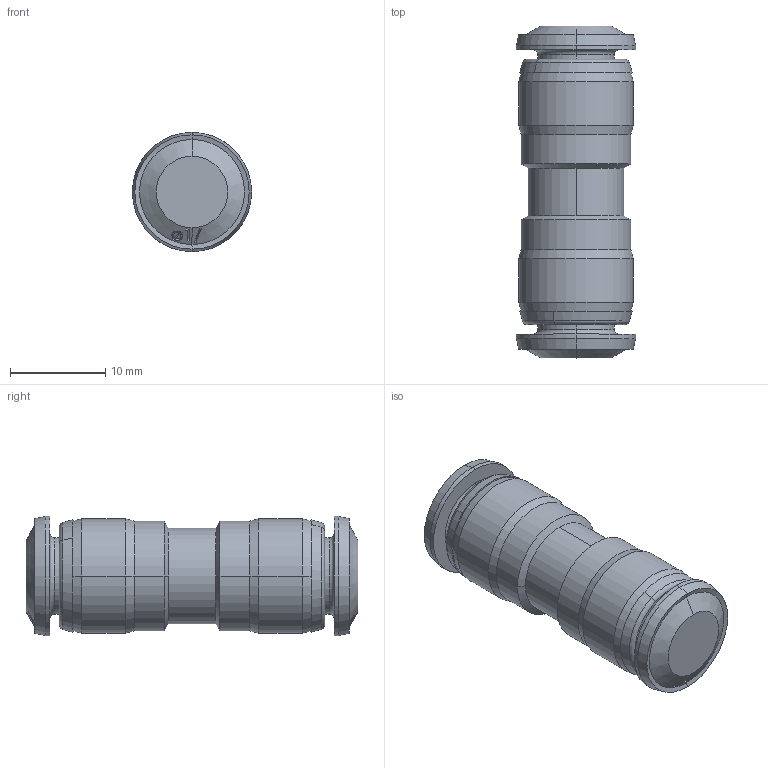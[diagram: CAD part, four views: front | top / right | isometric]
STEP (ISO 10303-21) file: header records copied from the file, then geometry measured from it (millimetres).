
FILE_DESCRIPTION (( 'STEP AP203' ), '1' );
FILE_NAME ('8504000005A.step', '2012-10-31T14:28:35', ( '' ), ( '' ), 'SwSTEP 2.0', 'SolidWorks 2012', '' );
FILE_SCHEMA (( 'CONFIG_CONTROL_DESIGN' ));
Length unit declared in the file: millimetre
Products named in the file (1): 8504000005A
Bounding box: 12.5 x 34.8 x 12.5 mm (x, y, z)
Volume: 3444.2 mm3; surface area: 1691.3 mm2
Topology: 1 solids, 1 shells, 147 faces, 345 edges, 218 vertices
Faces by surface type: bspline 73, cone 40, cylinder 18, torus 8, plane 8
Entity records: 6255 total; most frequent: CARTESIAN_POINT 3395, ORIENTED_EDGE 690, DIRECTION 356, EDGE_CURVE 345, B_SPLINE_CURVE_WITH_KNOTS 219, VERTEX_POINT 218, EDGE_LOOP 165, AXIS2_PLACEMENT_3D 155
